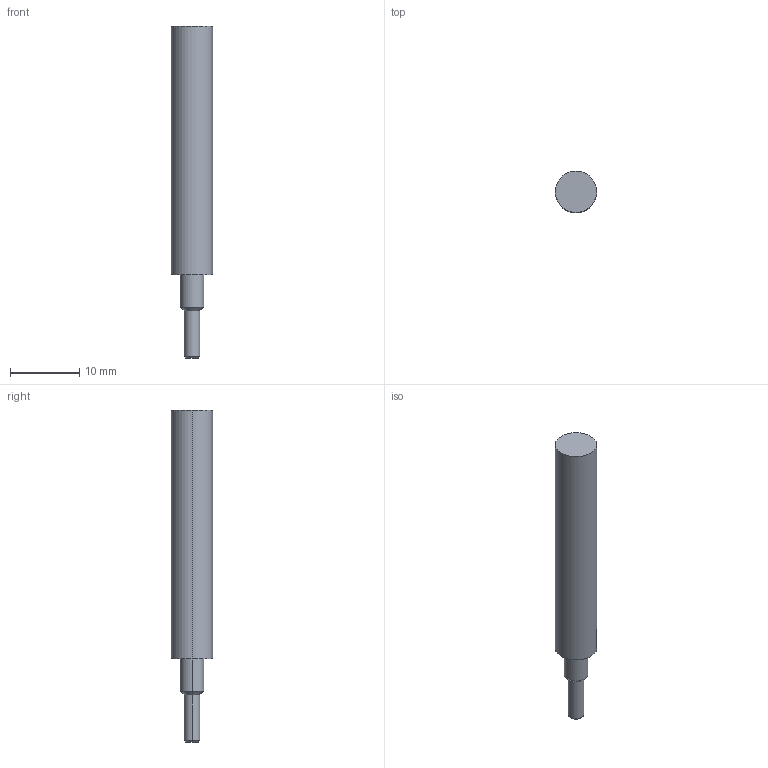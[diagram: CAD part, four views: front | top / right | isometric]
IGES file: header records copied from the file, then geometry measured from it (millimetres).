
Start section: 3D InterOp IGES (v. 2020 1.0.1), Spatial Corp. Copyright (c) 1999-2017.
Global section: file name: WZG17123_3.igs; native system: Spatial Corp.; preprocessor: 3D InterOp GENERIC/IGES 3.0; author: Noname; organization: Noname; date: 20201007.094617; units: metre
Bounding box: 6 x 6 x 48 mm (x, y, z)
Surface area: 834.7 mm2 (no closed solid volume)
Topology: 0 solids, 0 shells, 13 faces, 48 edges, 48 vertices
Faces by surface type: revolution 10, extrusion 3
